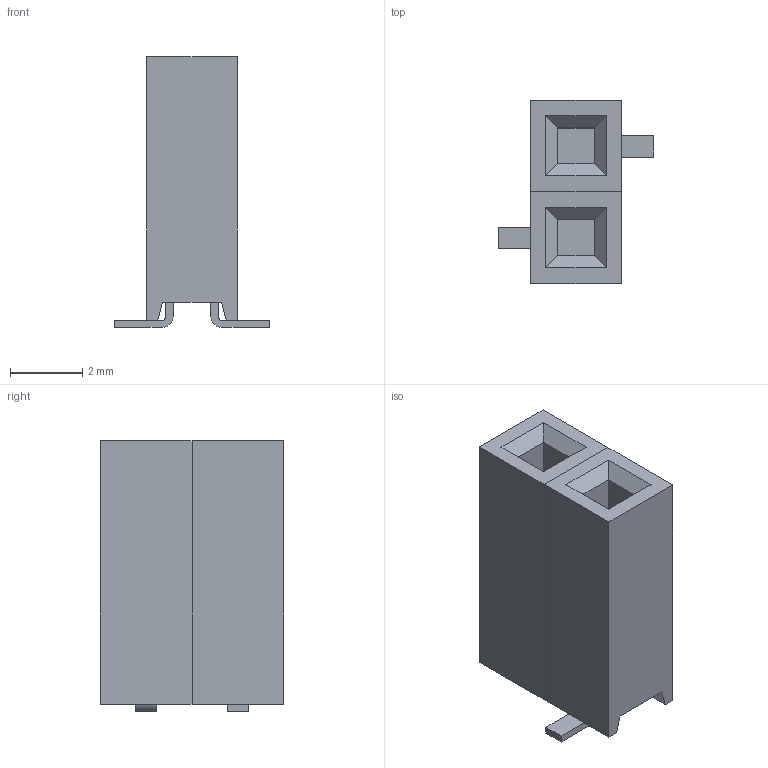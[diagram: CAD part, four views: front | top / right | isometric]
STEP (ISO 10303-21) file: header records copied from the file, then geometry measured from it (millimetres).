
FILE_DESCRIPTION(('FreeCAD Model'),'2;1');
FILE_NAME('Open CASCADE Shape Model','2025-02-24T21:21:02',( 'Krisjanis Rijnieks'),(''),'Open CASCADE STEP processor 7.7', 'FreeCAD','Unknown');
FILE_SCHEMA(('AUTOMOTIVE_DESIGN { 1 0 10303 214 1 1 1 1 }'));
Length unit declared in the file: millimetre
Products named in the file (7): 01x02_P2.54mm_Vertical_SMD; 01x01_P2.54mm_Vertical_SMD001; Body001; Lead001; 01x01_P2.54mm_Vertical_SMD002; Body002; Lead002
Assembly tree (6 placements, depth 3):
  01x02_P2.54mm_Vertical_SMD
    01x01_P2.54mm_Vertical_SMD001
      Body001
      Lead001
    01x01_P2.54mm_Vertical_SMD002
      Body002
      Lead002
Bounding box: 4.3 x 5.08 x 7.5 mm (x, y, z)
Volume: 80.9 mm3; surface area: 211.7 mm2
Topology: 4 solids, 4 shells, 58 faces, 136 edges, 88 vertices
Faces by surface type: plane 54, cylinder 4
Entity records: 1779 total; most frequent: CARTESIAN_POINT 289, DIRECTION 274, ORIENTED_EDGE 272, EDGE_CURVE 136, LINE 128, VECTOR 128, VERTEX_POINT 88, AXIS2_PLACEMENT_3D 73
